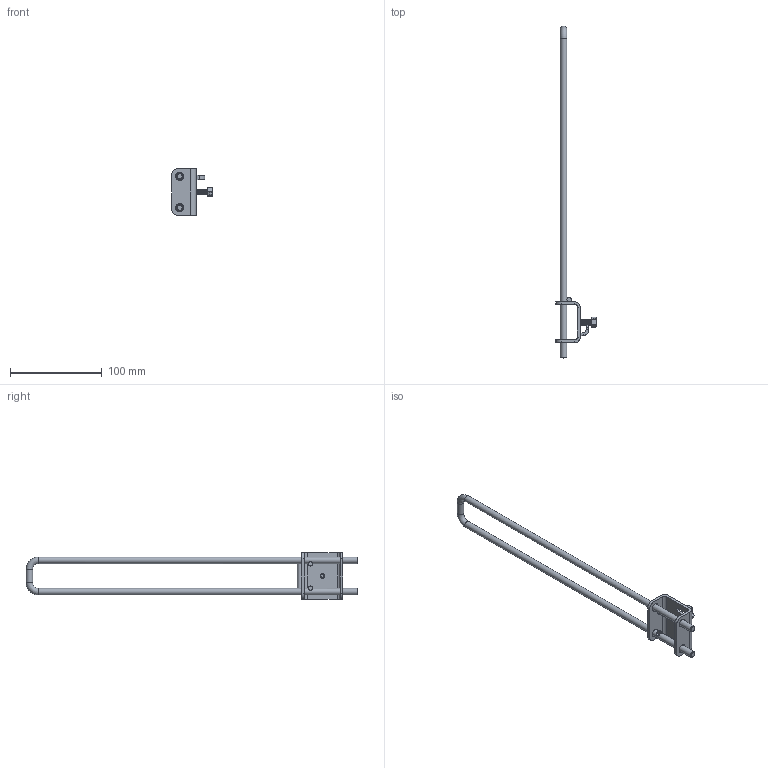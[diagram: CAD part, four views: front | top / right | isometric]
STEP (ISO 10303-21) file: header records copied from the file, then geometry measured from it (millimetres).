
FILE_DESCRIPTION(/* description */ (''),/* implementation_level */ '2;1');
FILE_NAME(/* name */ 'C:\GL-Vault\Inventor\I032XXX\I032872\GL-CR-CRP12.stp',/* time_stamp */ '2020-11-10T09:00:10-05:00',/* author */ ('HenryM'),/* organization */ (''),/* preprocessor_version */ 'ST-DEVELOPER v17',/* originating_system */ 'Autodesk Inventor 2018',/* authorisation */ '');
FILE_SCHEMA (('AUTOMOTIVE_DESIGN { 1 0 10303 214 3 1 1 }'));
Length unit declared in the file: inch
Products named in the file (4): WH12K1; WHB15; WH12; HH0601S_HH0601S
Assembly tree (3 placements, depth 2):
  WH12K1
    WHB15
    WH12
    HH0601S_HH0601S
Bounding box: 44.2 x 361.95 x 50.8 mm (x, y, z)
Volume: 43740.6 mm3; surface area: 27886.6 mm2
Topology: 4 solids, 4 shells, 129 faces, 349 edges, 230 vertices
Faces by surface type: plane 55, cylinder 43, cone 27, bspline 2, torus 2
Full cylindrical faces by diameter (mm): 3.731 x1, 4.75 x1, 5.105 x2, 6.35 x10, 7.137 x3, 9.144 x4
Entity records: 4794 total; most frequent: CARTESIAN_POINT 1315, DIRECTION 747, ORIENTED_EDGE 698, EDGE_CURVE 349, AXIS2_PLACEMENT_3D 301, VERTEX_POINT 230, CIRCLE 167, LINE 145
